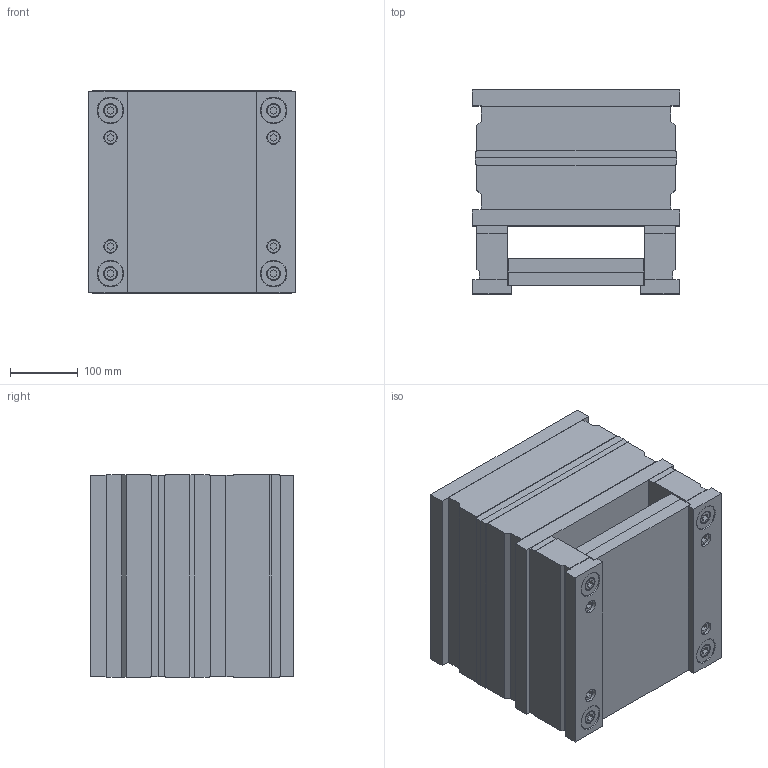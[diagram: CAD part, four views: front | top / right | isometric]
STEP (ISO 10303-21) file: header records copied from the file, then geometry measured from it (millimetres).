
FILE_DESCRIPTION (( 'STEP AP214' ), '1' );
FILE_NAME ('2961.STEP', '2002-07-10T07:55:42', ( 'Simcha Kilim' ), ( 'K. Plastics Engineering' ), 'SwSTEP 2.0', 'SolidWorks 2002025', '' );
FILE_SCHEMA (( 'AUTOMOTIVE_DESIGN' ));
Length unit declared in the file: millimetre
Products named in the file (14): 2961; ALMO (hot half)_2961; ALMO (ejector half wide)_2961; ALMO (ejector plate)_2961; ALMO (ejector return plate)_2961; ALMO (guide bush)_Ø23; ALMO (guide bush)_Ø24; ALMO (riser)_2961; ALMO (guide pin)_Ø24; ALMO (guide pin)_Ø23; ALMO (screw)_M12x130; ALMO (key plate)_Ø24; ALMO (screw)_M12x100; ALMO (screw)_M12x60
Assembly tree (34 placements, depth 2):
  2961
    ALMO (key plate)_Ø24  x8
    ALMO (screw)_M12x100  x4
    ALMO (guide bush)_Ø23  x3
    ALMO (screw)_M12x130  x4
    ALMO (screw)_M12x60  x4
    ALMO (ejector plate)_2961
    ALMO (riser)_2961  x2
    ALMO (ejector half wide)_2961
    ALMO (ejector return plate)_2961
    ALMO (guide pin)_Ø23  x3
    ALMO (guide bush)_Ø24
    ALMO (hot half)_2961
    ALMO (guide pin)_Ø24
Bounding box: 305 x 300 x 298 mm (x, y, z)
Volume: 22337139.7 mm3; surface area: 1398682 mm2
Topology: 34 solids, 34 shells, 862 faces, 1856 edges, 1152 vertices
Faces by surface type: plane 330, cylinder 316, cone 216
Entity records: 12293 total; most frequent: DIRECTION 2244, CARTESIAN_POINT 1973, ORIENTED_EDGE 1856, EDGE_CURVE 928, AXIS2_PLACEMENT_3D 855, VERTEX_POINT 584, LINE 534, VECTOR 534
